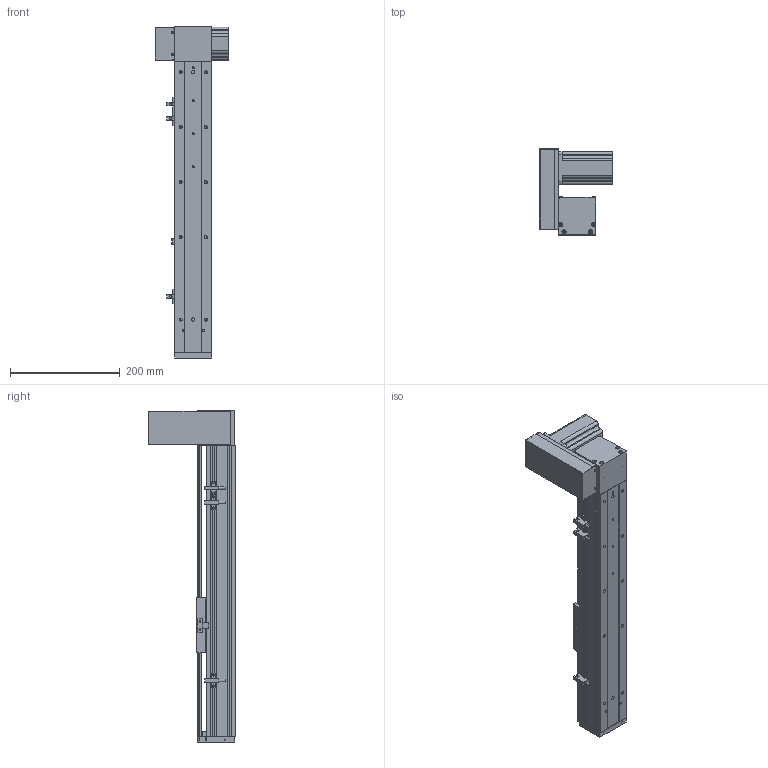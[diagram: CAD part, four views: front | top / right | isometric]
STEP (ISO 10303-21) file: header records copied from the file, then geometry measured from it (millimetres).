
FILE_DESCRIPTION (( 'STEP AP203' ), '1' );
FILE_NAME ('ML68-S350-UR.STEP', '2016-08-05T00:51:22', ( '' ), ( '' ), 'SwSTEP 2.0', 'SolidWorks 2014', '' );
FILE_SCHEMA (( 'CONFIG_CONTROL_DESIGN' ));
Length unit declared in the file: millimetre
Products named in the file (12): ML68傷啣; QS68酘衵殏萇儂啣; 換覜ん; QS68左右折电机板罩子; ML68雄赽釱; ML68奻裔^ML68-S350-UR; ML68滅鳥啣盓傅輸; 葩璃 ML68菁釱^ML68-S350-UR; ML68-S350-UR; ML68-BL傷啣; 三协电机MH201N2_預設; 60換覜結え
Assembly tree (13 placements, depth 2):
  ML68-S350-UR
    葩璃 ML68菁釱^ML68-S350-UR
    ML68奻裔^ML68-S350-UR
    ML68傷啣
    ML68-BL傷啣
    60換覜結え
    換覜ん  x3
    三协电机MH201N2_預設
    ML68雄赽釱
    QS68酘衵殏萇儂啣
    QS68左右折电机板罩子
    ML68滅鳥啣盓傅輸
Bounding box: 133.5 x 157 x 604 mm (x, y, z)
Volume: 1375379.8 mm3; surface area: 480911.5 mm2
Topology: 13 solids, 13 shells, 869 faces, 2376 edges, 1505 vertices
Faces by surface type: cylinder 392, plane 381, cone 96
Entity records: 27324 total; most frequent: CARTESIAN_POINT 5090, DIRECTION 4494, ORIENTED_EDGE 4252, EDGE_CURVE 2126, AXIS2_PLACEMENT_3D 1617, VERTEX_POINT 1393, VECTOR 1260, LINE 1260
